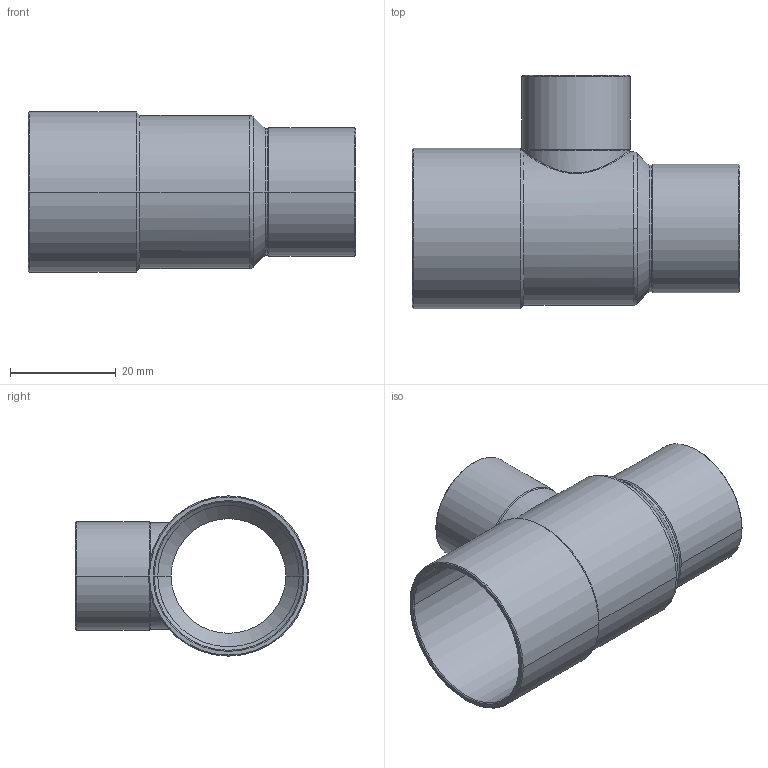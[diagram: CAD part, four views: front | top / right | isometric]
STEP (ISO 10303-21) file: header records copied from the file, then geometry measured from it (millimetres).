
FILE_DESCRIPTION((''),'2;1');
FILE_NAME('G:\Technics\CAD\Bauteile\15130\15130281822.stp','2005-11-03T13:42:43',('boden'),(''),'Autodesk Inventor 8','Autodesk Inventor 8','');
FILE_SCHEMA(('AUTOMOTIVE_DESIGN { 1 0 10303 214 1 1 1 1 }'));
Length unit declared in the file: millimetre
Products named in the file (1): 15130281822
Bounding box: 62 x 44.17 x 30.35 mm (x, y, z)
Volume: 6772.6 mm3; surface area: 12347.1 mm2
Topology: 1 solids, 1 shells, 59 faces, 133 edges, 75 vertices
Faces by surface type: cone 28, cylinder 24, plane 3, torus 2, bspline 2
Entity records: 2124 total; most frequent: CARTESIAN_POINT 770, DIRECTION 301, ORIENTED_EDGE 266, EDGE_CURVE 133, AXIS2_PLACEMENT_3D 124, VERTEX_POINT 75, CIRCLE 66, EDGE_LOOP 62
